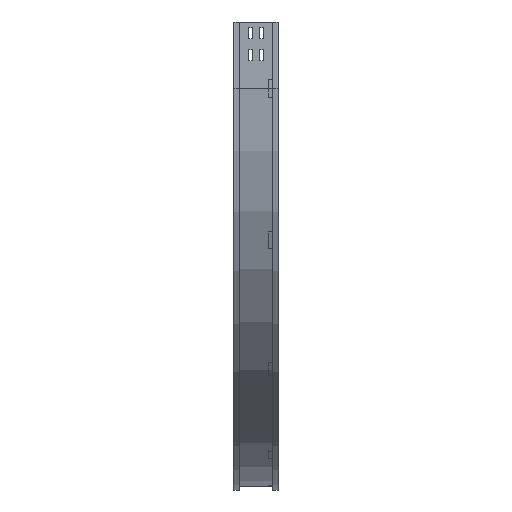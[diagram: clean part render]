
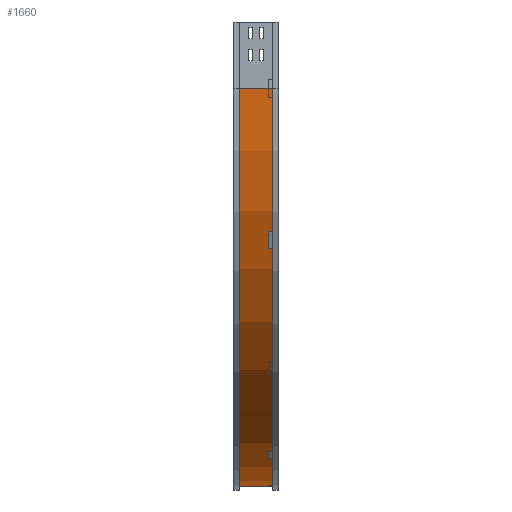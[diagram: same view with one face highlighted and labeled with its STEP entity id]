
A CAD part, left-side view. The second image highlights one B-rep face of the part: STEP entity #1660.
In plain terms, the highlighted cylindrical face has radius 900 mm (diameter 1800 mm), a partial arc.
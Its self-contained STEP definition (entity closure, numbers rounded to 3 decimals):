
#107 = VECTOR ( 'NONE', #4006, 1000. ) ;
#248 = LINE ( 'NONE', #1310, #107 ) ;
#263 = CARTESIAN_POINT ( 'NONE',  ( 909., 88., -150. ) ) ;
#304 = VERTEX_POINT ( 'NONE', #901 ) ;
#305 = DIRECTION ( 'NONE',  ( 0., -1., 0. ) ) ;
#332 = CIRCLE ( 'NONE', #3256, 900. ) ;
#594 = EDGE_CURVE ( 'NONE', #2738, #2339, #4364, .T. ) ;
#700 = VECTOR ( 'NONE', #2644, 1000. ) ;
#827 = EDGE_CURVE ( 'NONE', #2738, #4431, #3914, .T. ) ;
#901 = CARTESIAN_POINT ( 'NONE',  ( 909., 12., -1050. ) ) ;
#1088 = DIRECTION ( 'NONE',  ( 0., -1., 0. ) ) ;
#1234 = ORIENTED_EDGE ( 'NONE', *, *, #594, .F. ) ;
#1236 = DIRECTION ( 'NONE',  ( 0., -1., 0. ) ) ;
#1243 = CARTESIAN_POINT ( 'NONE',  ( 9., 12., -150. ) ) ;
#1310 = CARTESIAN_POINT ( 'NONE',  ( 909., 12., -1050. ) ) ;
#1461 = CARTESIAN_POINT ( 'NONE',  ( 9., 12., -150. ) ) ;
#1660 = ADVANCED_FACE ( 'NONE', ( #4396 ), #2959, .T. ) ;
#1722 = AXIS2_PLACEMENT_3D ( 'NONE', #263, #305, #4115 ) ;
#1775 = CARTESIAN_POINT ( 'NONE',  ( 909., 12., -150. ) ) ;
#1986 = EDGE_CURVE ( 'NONE', #2339, #304, #332, .T. ) ;
#2044 = DIRECTION ( 'NONE',  ( -1., 0., 0. ) ) ;
#2291 = CARTESIAN_POINT ( 'NONE',  ( 9., 88., -150. ) ) ;
#2339 = VERTEX_POINT ( 'NONE', #1461 ) ;
#2563 = ORIENTED_EDGE ( 'NONE', *, *, #827, .T. ) ;
#2644 = DIRECTION ( 'NONE',  ( 0., -1., 0. ) ) ;
#2657 = DIRECTION ( 'NONE',  ( 0., 0., -1. ) ) ;
#2673 = ORIENTED_EDGE ( 'NONE', *, *, #3814, .T. ) ;
#2738 = VERTEX_POINT ( 'NONE', #2291 ) ;
#2959 = CYLINDRICAL_SURFACE ( 'NONE', #4265, 900. ) ;
#3256 = AXIS2_PLACEMENT_3D ( 'NONE', #1775, #1088, #2044 ) ;
#3351 = CARTESIAN_POINT ( 'NONE',  ( 909., 0., -150. ) ) ;
#3466 = EDGE_LOOP ( 'NONE', ( #3787, #1234, #2563, #2673 ) ) ;
#3787 = ORIENTED_EDGE ( 'NONE', *, *, #1986, .F. ) ;
#3814 = EDGE_CURVE ( 'NONE', #4431, #304, #248, .T. ) ;
#3914 = CIRCLE ( 'NONE', #1722, 900. ) ;
#4006 = DIRECTION ( 'NONE',  ( 0., -1., 0. ) ) ;
#4115 = DIRECTION ( 'NONE',  ( -1., 0., 0. ) ) ;
#4240 = CARTESIAN_POINT ( 'NONE',  ( 909., 88., -1050. ) ) ;
#4265 = AXIS2_PLACEMENT_3D ( 'NONE', #3351, #1236, #2657 ) ;
#4364 = LINE ( 'NONE', #1243, #700 ) ;
#4396 = FACE_OUTER_BOUND ( 'NONE', #3466, .T. ) ;
#4431 = VERTEX_POINT ( 'NONE', #4240 ) ;
